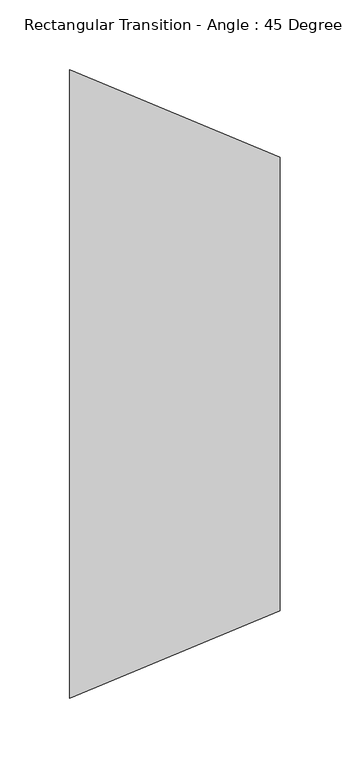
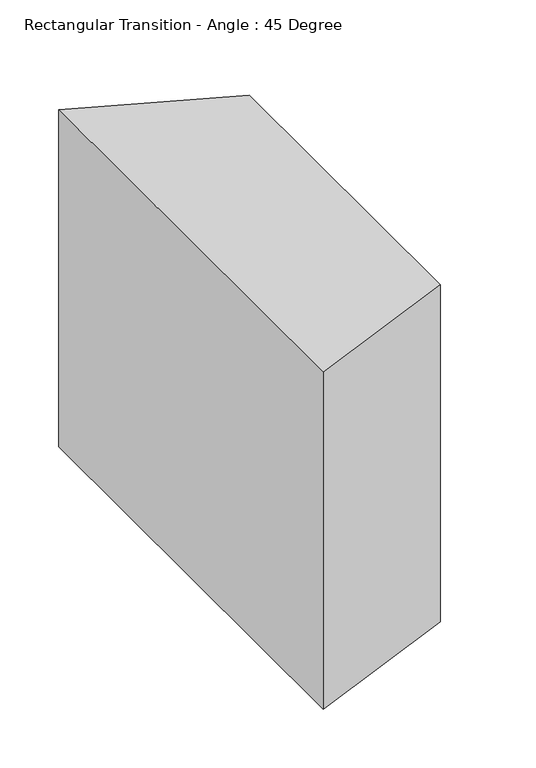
"""IFC4 building model written with IfcOpenShell, lengths in millimetres: duct fitting geometry, Rectangular Transition - Angle : 45 Degree."""

from ifc_helpers import new_model, si_unit, frame, origin, place, context, project, spatial, polyline, outline, extrude, source, transform, mapped, element, save


def rectangular_transition_angle_45_degree_50548305(model_context):
    return source(origin(), model_context, "Body", "SweptSolid", [
        extrude(outline(polyline([(0.0, -225.0), (0.0, 225.0), (150.8883476, 162.5), (150.8883476, -162.5), (0.0, -225.0)])), frame((0.0, 0.0, -175.0), z_axis=(0.0, 0.0, 1.0), x_axis=(1.0, 0.0, 0.0)), (0.0, 0.0, 1.0), 350.0),
    ])


if __name__ == "__main__":
    model = new_model("IFC4")
    model_context = context("Model", 3, world=origin())
    ifc_project = project(units=[si_unit("LENGTHUNIT", "METRE", prefix="MILLI")], contexts=[model_context])
    site = spatial("IfcSite", under=ifc_project)
    building = spatial("IfcBuilding", under=site)
    placement = place(None, origin())
    rectangular_transition_angle_45_degree_shape = rectangular_transition_angle_45_degree_50548305(model_context)
    element("IfcDuctFitting", 1, ObjectType="Rectangular Transition - Angle : 45 Degree", at=placement, inside=building, context=model_context, shape_type="MappedRepresentation", body=[
        mapped(rectangular_transition_angle_45_degree_shape, transform((0.0, 0.0, 0.0), x_axis=(1.0, 0.0, 0.0), y_axis=(0.0, 1.0, 0.0), z_axis=(0.0, 0.0, 1.0))),
    ])
    save(model, "model.ifc")
